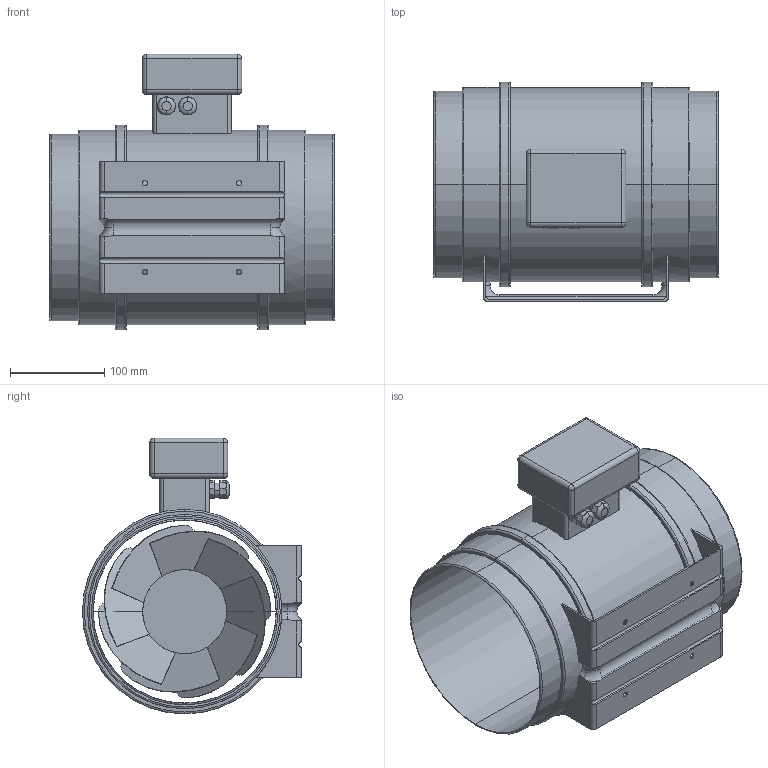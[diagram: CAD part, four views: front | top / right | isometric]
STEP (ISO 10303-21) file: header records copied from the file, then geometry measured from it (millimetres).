
FILE_DESCRIPTION(('STEP AP214'),'1');
FILE_NAME('fan_5211024400.stp','2017-03-31T12:38:59',('TraceParts'),('TraceParts S.A.'),'Spatial InterOp 3D',' ',' ');
FILE_SCHEMA(('automotive_design'));
Length unit declared in the file: millimetre
Products named in the file (1): fan_5211024400
Bounding box: 302 x 232.5 x 292.5 mm (x, y, z)
Volume: 2103267.5 mm3; surface area: 611879.1 mm2
Topology: 1 solids, 1 shells, 246 faces, 674 edges, 437 vertices
Faces by surface type: plane 112, cylinder 94, torus 32, sphere 8
Entity records: 12333 total; most frequent: CARTESIAN_POINT 4056, ORIENTED_EDGE 1332, DIRECTION 1329, EDGE_CURVE 666, AXIS2_PLACEMENT_3D 520, VERTEX_POINT 437, LINE 289, VECTOR 289
